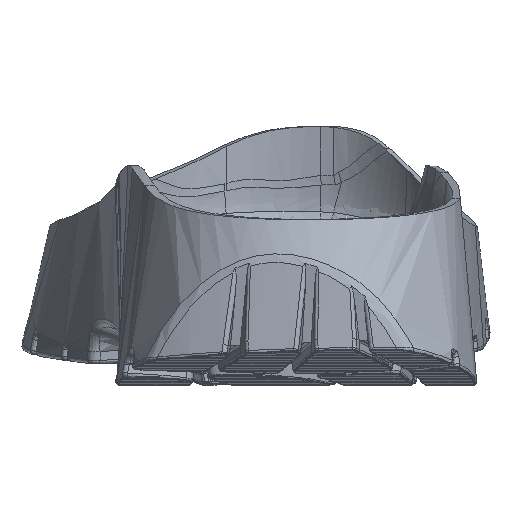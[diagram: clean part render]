
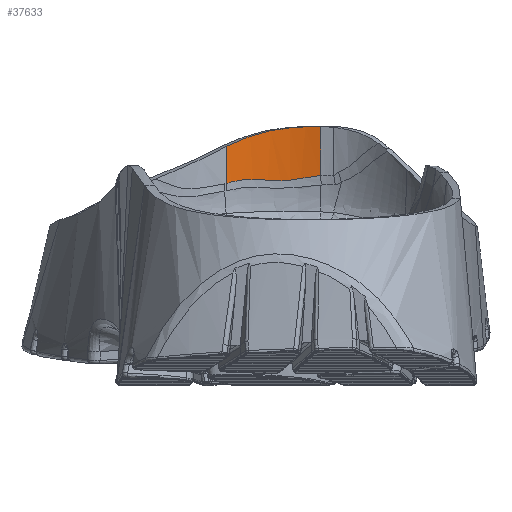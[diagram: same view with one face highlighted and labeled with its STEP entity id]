
A CAD part, left-side view. The second image highlights one B-rep face of the part: STEP entity #37633.
In plain terms, the highlighted free-form (B-spline) face has degree [3, 1] with [10, 2] control points.
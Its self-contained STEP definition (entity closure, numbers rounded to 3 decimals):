
#928=LINE('',#60897,#1622);
#929=LINE('',#60924,#1623);
#1622=VECTOR('',#41918,1000.);
#1623=VECTOR('',#41919,1000.);
#5381=ORIENTED_EDGE('',*,*,#17901,.T.);
#5382=ORIENTED_EDGE('',*,*,#17841,.T.);
#5383=ORIENTED_EDGE('',*,*,#17840,.T.);
#5384=ORIENTED_EDGE('',*,*,#17839,.T.);
#5385=ORIENTED_EDGE('',*,*,#17899,.F.);
#5386=ORIENTED_EDGE('',*,*,#17902,.F.);
#17839=EDGE_CURVE('',#24125,#24121,#28140,.T.);
#17840=EDGE_CURVE('',#24126,#24125,#28141,.T.);
#17841=EDGE_CURVE('',#24127,#24126,#28142,.T.);
#17899=EDGE_CURVE('',#24156,#24121,#928,.T.);
#17901=EDGE_CURVE('',#24157,#24127,#929,.T.);
#17902=EDGE_CURVE('',#24157,#24156,#28195,.T.);
#24121=VERTEX_POINT('',#59119);
#24125=VERTEX_POINT('',#59228);
#24126=VERTEX_POINT('',#59233);
#24127=VERTEX_POINT('',#59238);
#24156=VERTEX_POINT('',#60898);
#24157=VERTEX_POINT('',#60925);
#28140=B_SPLINE_CURVE_WITH_KNOTS('',3,(#59217,#59218,#59219,#59220,#59221,
#59222,#59223,#59224,#59225,#59226,#59227),.UNSPECIFIED.,.F.,.F.,(4,1,1,
1,1,1,1,1,4),(-0.021,-0.018,-0.016,
-0.013,-0.01,-0.008,-0.005,
-0.002,0.),.UNSPECIFIED.);
#28141=B_SPLINE_CURVE_WITH_KNOTS('',3,(#59229,#59230,#59231,#59232),
 .UNSPECIFIED.,.F.,.F.,(4,4),(0.,0.001),
 .UNSPECIFIED.);
#28142=B_SPLINE_CURVE_WITH_KNOTS('',3,(#59234,#59235,#59236,#59237),
 .UNSPECIFIED.,.F.,.F.,(4,4),(0.,0.001),
 .UNSPECIFIED.);
#28195=B_SPLINE_CURVE_WITH_KNOTS('',3,(#60926,#60927,#60928,#60929,#60930,
#60931,#60932,#60933),.UNSPECIFIED.,.F.,.F.,(4,1,1,1,1,4),(0.,
0.006,0.009,0.012,0.018,
0.023),.UNSPECIFIED.);
#32348=EDGE_LOOP('',(#5381,#5382,#5383,#5384,#5385,#5386));
#34784=FACE_BOUND('',#32348,.T.);
#37164=B_SPLINE_SURFACE_WITH_KNOTS('',3,1,((#60904,#60905),(#60906,#60907),
(#60908,#60909),(#60910,#60911),(#60912,#60913),(#60914,#60915),(#60916,
#60917),(#60918,#60919),(#60920,#60921),(#60922,#60923)),
 .SURF_OF_LINEAR_EXTRUSION.,.F.,.F.,.F.,(4,1,1,1,1,1,1,4),(2,2),(0.,0.063,
0.125,0.25,0.375,0.5,0.75,1.),(0.,1.),.UNSPECIFIED.);
#37633=ADVANCED_FACE('',(#34784),#37164,.F.);
#41918=DIRECTION('',(0.053,0.,-0.999));
#41919=DIRECTION('',(0.053,0.,-0.999));
#59119=CARTESIAN_POINT('',(229.408,0.,24.877));
#59217=CARTESIAN_POINT('',(228.221,21.006,23.369));
#59218=CARTESIAN_POINT('',(228.475,20.185,23.595));
#59219=CARTESIAN_POINT('',(228.962,18.47,23.892));
#59220=CARTESIAN_POINT('',(229.519,15.833,23.968));
#59221=CARTESIAN_POINT('',(229.899,13.176,23.88));
#59222=CARTESIAN_POINT('',(230.149,10.503,23.548));
#59223=CARTESIAN_POINT('',(230.215,7.84,23.662));
#59224=CARTESIAN_POINT('',(230.118,5.219,24.098));
#59225=CARTESIAN_POINT('',(229.877,2.595,24.506));
#59226=CARTESIAN_POINT('',(229.589,0.864,24.775));
#59227=CARTESIAN_POINT('',(229.408,0.,24.877));
#59228=CARTESIAN_POINT('',(228.221,21.006,23.369));
#59229=CARTESIAN_POINT('',(228.013,21.668,23.163));
#59230=CARTESIAN_POINT('',(228.083,21.45,23.238));
#59231=CARTESIAN_POINT('',(228.151,21.23,23.312));
#59232=CARTESIAN_POINT('',(228.221,21.006,23.369));
#59233=CARTESIAN_POINT('',(228.013,21.668,23.163));
#59234=CARTESIAN_POINT('',(227.784,22.348,22.942));
#59235=CARTESIAN_POINT('',(227.866,22.118,22.997));
#59236=CARTESIAN_POINT('',(227.941,21.893,23.081));
#59237=CARTESIAN_POINT('',(228.013,21.668,23.163));
#59238=CARTESIAN_POINT('',(227.784,22.348,22.942));
#60897=CARTESIAN_POINT('',(227.427,0.,62.236));
#60898=CARTESIAN_POINT('',(228.794,0.,36.457));
#60904=CARTESIAN_POINT('',(227.068,22.348,36.446));
#60905=CARTESIAN_POINT('',(227.789,22.348,22.861));
#60906=CARTESIAN_POINT('',(227.238,21.888,36.455));
#60907=CARTESIAN_POINT('',(227.958,21.888,22.87));
#60908=CARTESIAN_POINT('',(227.529,21.013,36.471));
#60909=CARTESIAN_POINT('',(228.249,21.013,22.886));
#60910=CARTESIAN_POINT('',(228.087,19.208,36.5));
#60911=CARTESIAN_POINT('',(228.808,19.208,22.915));
#60912=CARTESIAN_POINT('',(228.659,16.883,36.531));
#60913=CARTESIAN_POINT('',(229.379,16.883,22.946));
#60914=CARTESIAN_POINT('',(229.121,14.073,36.555));
#60915=CARTESIAN_POINT('',(229.841,14.073,22.97));
#60916=CARTESIAN_POINT('',(229.507,10.334,36.576));
#60917=CARTESIAN_POINT('',(230.227,10.334,22.991));
#60918=CARTESIAN_POINT('',(229.564,5.693,36.579));
#60919=CARTESIAN_POINT('',(230.284,5.693,22.994));
#60920=CARTESIAN_POINT('',(229.174,1.896,36.558));
#60921=CARTESIAN_POINT('',(229.894,1.896,22.973));
#60922=CARTESIAN_POINT('',(228.789,0.,36.538));
#60923=CARTESIAN_POINT('',(229.51,0.,22.953));
#60924=CARTESIAN_POINT('',(225.706,22.348,62.145));
#60925=CARTESIAN_POINT('',(227.317,22.348,31.763));
#60926=CARTESIAN_POINT('',(227.317,22.348,31.763));
#60927=CARTESIAN_POINT('',(227.895,20.668,32.582));
#60928=CARTESIAN_POINT('',(228.594,18.047,33.706));
#60929=CARTESIAN_POINT('',(229.167,14.378,34.902));
#60930=CARTESIAN_POINT('',(229.532,10.645,35.788));
#60931=CARTESIAN_POINT('',(229.589,5.8,36.373));
#60932=CARTESIAN_POINT('',(229.184,1.918,36.455));
#60933=CARTESIAN_POINT('',(228.794,0.,36.457));
